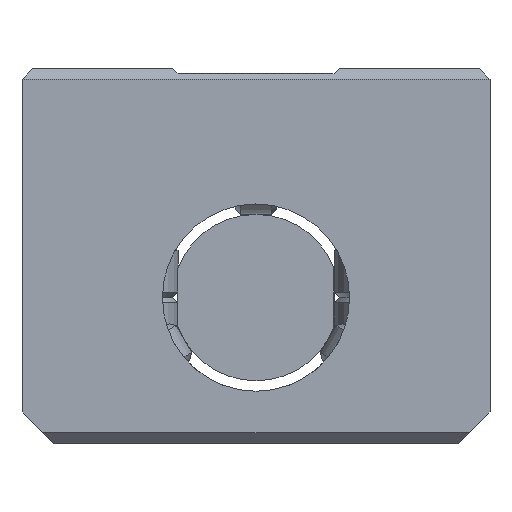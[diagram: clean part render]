
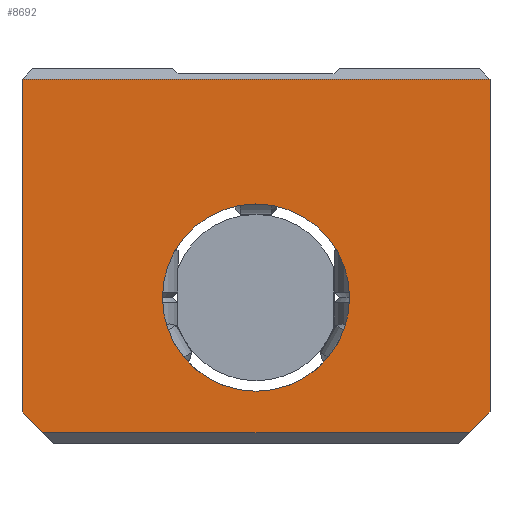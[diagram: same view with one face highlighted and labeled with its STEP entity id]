
A CAD part, left-side view. The second image highlights one B-rep face of the part: STEP entity #8692.
In plain terms, the highlighted planar face has unit normal (-1, 0, 0).
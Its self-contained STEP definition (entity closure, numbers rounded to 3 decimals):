
#6731=CARTESIAN_POINT('',(205.323,9.0,0.));
#6732=VERTEX_POINT('',#6731);
#6733=CARTESIAN_POINT('',(205.323,0.0,0.0));
#6734=DIRECTION('',(1.0,0.0,0.0));
#6735=DIRECTION('',(0.0,-1.0,0.0));
#6736=AXIS2_PLACEMENT_3D('',#6733,#6734,#6735);
#6737=CIRCLE('',#6736,9.0);
#6738=EDGE_CURVE('',#6732,#6732,#6737,.T.);
#7252=CARTESIAN_POINT('',(205.323,-22.5,21.));
#7253=VERTEX_POINT('',#7252);
#7262=CARTESIAN_POINT('',(205.323,-22.5,-11.));
#7263=VERTEX_POINT('',#7262);
#7264=CARTESIAN_POINT('',(205.323,-22.5,21.));
#7265=DIRECTION('',(0.0,0.0,-1.0));
#7266=VECTOR('',#7265,32.0);
#7267=LINE('',#7264,#7266);
#7268=EDGE_CURVE('',#7253,#7263,#7267,.T.);
#7691=CARTESIAN_POINT('',(205.323,20.5,-13.));
#7692=VERTEX_POINT('',#7691);
#7699=CARTESIAN_POINT('',(205.323,22.5,-11.));
#7700=VERTEX_POINT('',#7699);
#7701=CARTESIAN_POINT('',(205.323,20.5,-13.));
#7702=DIRECTION('',(0.0,0.707,0.707));
#7703=VECTOR('',#7702,2.828);
#7704=LINE('',#7701,#7703);
#7705=EDGE_CURVE('',#7692,#7700,#7704,.T.);
#7731=CARTESIAN_POINT('',(205.323,-20.5,-13.));
#7732=VERTEX_POINT('',#7731);
#7739=CARTESIAN_POINT('',(205.323,-20.5,-13.));
#7740=DIRECTION('',(0.0,1.0,0.0));
#7741=VECTOR('',#7740,41.0);
#7742=LINE('',#7739,#7741);
#7743=EDGE_CURVE('',#7732,#7692,#7742,.T.);
#7825=CARTESIAN_POINT('',(205.323,22.5,21.));
#7826=VERTEX_POINT('',#7825);
#7833=CARTESIAN_POINT('',(205.323,22.5,21.));
#7834=DIRECTION('',(0.0,-1.0,0.0));
#7835=VECTOR('',#7834,45.0);
#7836=LINE('',#7833,#7835);
#7837=EDGE_CURVE('',#7826,#7253,#7836,.T.);
#8112=CARTESIAN_POINT('',(205.323,-22.5,-11.));
#8113=DIRECTION('',(0.0,0.707,-0.707));
#8114=VECTOR('',#8113,2.828);
#8115=LINE('',#8112,#8114);
#8116=EDGE_CURVE('',#7263,#7732,#8115,.T.);
#8153=CARTESIAN_POINT('',(205.323,22.5,-11.));
#8154=DIRECTION('',(0.0,0.0,1.0));
#8155=VECTOR('',#8154,32.0);
#8156=LINE('',#8153,#8155);
#8157=EDGE_CURVE('',#7700,#7826,#8156,.T.);
#8676=CARTESIAN_POINT('',(205.323,-15.25,21.75));
#8677=DIRECTION('',(1.0,0.0,0.0));
#8678=DIRECTION('',(0.0,0.0,-1.0));
#8679=AXIS2_PLACEMENT_3D('',#8676,#8677,#8678);
#8680=PLANE('',#8679);
#8681=ORIENTED_EDGE('',*,*,#7743,.F.);
#8682=ORIENTED_EDGE('',*,*,#8116,.F.);
#8683=ORIENTED_EDGE('',*,*,#7268,.F.);
#8684=ORIENTED_EDGE('',*,*,#7837,.F.);
#8685=ORIENTED_EDGE('',*,*,#8157,.F.);
#8686=ORIENTED_EDGE('',*,*,#7705,.F.);
#8687=EDGE_LOOP('',(#8681,#8682,#8683,#8684,#8685,#8686));
#8688=FACE_OUTER_BOUND('',#8687,.T.);
#8689=ORIENTED_EDGE('',*,*,#6738,.T.);
#8690=EDGE_LOOP('',(#8689));
#8691=FACE_BOUND('',#8690,.T.);
#8692=ADVANCED_FACE('',(#8688,#8691),#8680,.F.);
